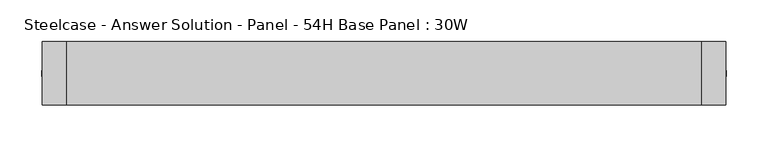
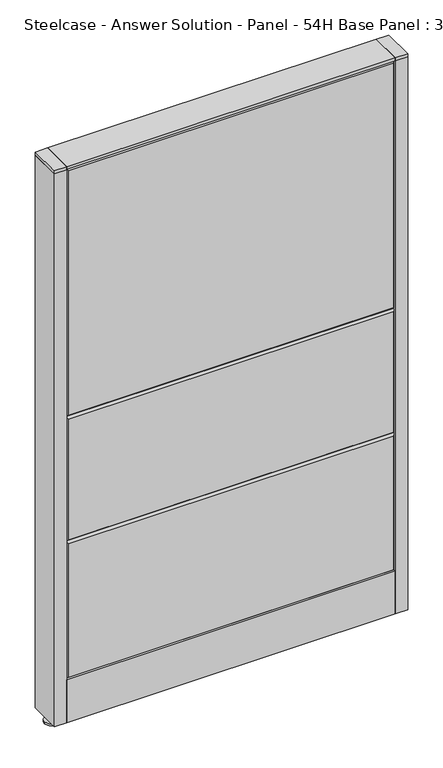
"""IFC4 building model written with IfcOpenShell, lengths in millimetres: furniture geometry, Steelcase - Answer Solution - Panel - 54H Base Panel : 30W."""

from ifc_helpers import new_model, si_unit, point, frame, frame_2d, origin, place, context, project, spatial, polyline, circle_curve, trimmed, segment, composite_curve, outline, extrude, faceted_brep, source, transform, mapped, element, save


def steelcase_answer_solution_panel_54h_base_panel_30w_034c49c9(model_context):
    return source(origin(), model_context, "Body", "SolidModel", [
        extrude(outline(composite_curve([segment(trimmed(circle_curve(frame_2d((395.224, 0.0320214)), 5.08), [point((400.304, 0.0320214))], [point((390.144, 0.0320214))], False, "CARTESIAN"), True, "CONTINUOUS"), segment(trimmed(circle_curve(frame_2d((395.224, 0.0320214)), 5.08), [point((390.144, 0.0320214))], [point((400.304, 0.0320214))], False, "CARTESIAN"), True, "CONTINUOUS")], self_intersect=False)), frame((0.0, 0.0, 5.0799671), z_axis=(0.0, 0.0, 1.0), x_axis=(1.0, 0.0, 0.0)), (0.0, 0.0, 1.0), 10.414),
        extrude(outline(composite_curve([segment(trimmed(circle_curve(frame_2d((395.224, 0.0320214)), 15.24), [point((410.464, 0.0320214))], [point((379.984, 0.0320214))], False, "CARTESIAN"), True, "CONTINUOUS"), segment(trimmed(circle_curve(frame_2d((395.224, 0.0320214)), 15.24), [point((379.984, 0.0320214))], [point((410.464, 0.0320214))], False, "CARTESIAN"), True, "CONTINUOUS")], self_intersect=False)), frame((0.0, 0.0, -3.29e-05), z_axis=(0.0, 0.0, 1.0), x_axis=(1.0, 0.0, 0.0)), (0.0, 0.0, 1.0), 5.08),
        extrude(outline(polyline([(409.575, 38.1320408), (409.575, -38.0679592), (381.0, -38.0679592), (381.0, 38.1320408), (409.575, 38.1320408)])), frame((0.0, 0.0, 1370.6348), z_axis=(0.0, 0.0, 1.0), x_axis=(1.0, 0.0, 0.0)), (0.0, 0.0, 1.0), 7.3151671),
        extrude(outline(polyline([(409.575, 38.1320408), (409.575, -38.0679592), (381.0, -38.0679592), (381.0, 38.1320408), (409.575, 38.1320408)])), frame((0.0, 0.0, 15.4939671), z_axis=(0.0, 0.0, 1.0), x_axis=(1.0, 0.0, 0.0)), (0.0, 0.0, 1.0), 1355.1408329),
        extrude(outline(composite_curve([segment(trimmed(circle_curve(frame_2d((-395.224, 0.0320214)), 5.08), [point((-400.304, 0.0320214))], [point((-390.144, 0.0320214))], False, "CARTESIAN"), True, "CONTINUOUS"), segment(trimmed(circle_curve(frame_2d((-395.224, 0.0320214)), 5.08), [point((-390.144, 0.0320214))], [point((-400.304, 0.0320214))], False, "CARTESIAN"), True, "CONTINUOUS")], self_intersect=False)), frame((0.0, 0.0, 5.0799671), z_axis=(0.0, 0.0, 1.0), x_axis=(1.0, 0.0, 0.0)), (0.0, 0.0, 1.0), 10.414),
        extrude(outline(composite_curve([segment(trimmed(circle_curve(frame_2d((-395.224, 0.0320214)), 15.24), [point((-410.464, 0.0320214))], [point((-379.984, 0.0320214))], False, "CARTESIAN"), True, "CONTINUOUS"), segment(trimmed(circle_curve(frame_2d((-395.224, 0.0320214)), 15.24), [point((-379.984, 0.0320214))], [point((-410.464, 0.0320214))], False, "CARTESIAN"), True, "CONTINUOUS")], self_intersect=False)), frame((0.0, 0.0, -3.29e-05), z_axis=(0.0, 0.0, 1.0), x_axis=(1.0, 0.0, 0.0)), (0.0, 0.0, 1.0), 5.08),
        extrude(outline(polyline([(-409.575, 38.1320408), (-381.0, 38.1320408), (-381.0, -38.0679592), (-409.575, -38.0679592), (-409.575, 38.1320408)])), frame((0.0, 0.0, 1370.6348), z_axis=(0.0, 0.0, 1.0), x_axis=(1.0, 0.0, 0.0)), (0.0, 0.0, 1.0), 7.3151671),
        extrude(outline(polyline([(-409.575, 38.1320408), (-381.0, 38.1320408), (-381.0, -38.0679592), (-409.575, -38.0679592), (-409.575, 38.1320408)])), frame((0.0, 0.0, 15.4939671), z_axis=(0.0, 0.0, 1.0), x_axis=(1.0, 0.0, 0.0)), (0.0, 0.0, 1.0), 1355.1408329),
        faceted_brep([(-376.174, 38.1635011, 1366.774), (376.174, 38.1635011, 1366.774), (376.174, 38.1635011, 766.826), (-376.174, 38.1635011, 766.826), (-381.0, 33.3375011, 1371.6), (-381.0, 33.3375011, 762.0), (381.0, 33.3375011, 762.0), (381.0, 33.3375011, 1371.6)], [[[0, 1, 2, 3]], [[4, 5, 6, 7]], [[4, 7, 1, 0]], [[7, 6, 2, 1]], [[6, 5, 3, 2]], [[5, 4, 0, 3]]]),
        faceted_brep([(-376.174, 38.1635011, 757.174), (376.174, 38.1635011, 757.174), (376.174, 38.1635011, 462.026), (-376.174, 38.1635011, 462.026), (-381.0, 33.3375011, 762.0), (-381.0, 33.3375011, 457.2), (381.0, 33.3375011, 457.2), (381.0, 33.3375011, 762.0)], [[[0, 1, 2, 3]], [[4, 5, 6, 7]], [[4, 7, 1, 0]], [[7, 6, 2, 1]], [[6, 5, 3, 2]], [[5, 4, 0, 3]]]),
        faceted_brep([(-376.174, 38.1635011, 452.374), (376.174, 38.1635011, 452.374), (376.174, 38.1635011, 125.476), (-376.174, 38.1635011, 125.476), (-381.0, 33.3375011, 457.2), (-381.0, 33.3375011, 120.65), (381.0, 33.3375011, 120.65), (381.0, 33.3375011, 457.2)], [[[0, 1, 2, 3]], [[4, 5, 6, 7]], [[4, 7, 1, 0]], [[7, 6, 2, 1]], [[6, 5, 3, 2]], [[5, 4, 0, 3]]]),
        faceted_brep([(376.174, -38.1635011, 1366.774), (-376.174, -38.1635011, 1366.774), (-376.174, -38.1635011, 766.826), (376.174, -38.1635011, 766.826), (381.0, -33.3375011, 1371.6), (381.0, -33.3375011, 762.0), (-381.0, -33.3375011, 762.0), (-381.0, -33.3375011, 1371.6)], [[[0, 1, 2, 3]], [[4, 5, 6, 7]], [[4, 7, 1, 0]], [[7, 6, 2, 1]], [[6, 5, 3, 2]], [[5, 4, 0, 3]]]),
        faceted_brep([(376.174, -38.1635011, 757.174), (-376.174, -38.1635011, 757.174), (-376.174, -38.1635011, 462.026), (376.174, -38.1635011, 462.026), (381.0, -33.3375011, 762.0), (381.0, -33.3375011, 457.2), (-381.0, -33.3375011, 457.2), (-381.0, -33.3375011, 762.0)], [[[0, 1, 2, 3]], [[4, 5, 6, 7]], [[4, 7, 1, 0]], [[7, 6, 2, 1]], [[6, 5, 3, 2]], [[5, 4, 0, 3]]]),
        faceted_brep([(376.174, -38.1635011, 452.374), (-376.174, -38.1635011, 452.374), (-376.174, -38.1635011, 125.476), (376.174, -38.1635011, 125.476), (381.0, -33.3375011, 457.2), (381.0, -33.3375011, 120.65), (-381.0, -33.3375011, 120.65), (-381.0, -33.3375011, 457.2)], [[[0, 1, 2, 3]], [[4, 5, 6, 7]], [[4, 7, 1, 0]], [[7, 6, 2, 1]], [[6, 5, 3, 2]], [[5, 4, 0, 3]]]),
        extrude(outline(polyline([(381.0, 38.1000194), (381.0, -38.1000194), (-381.0, -38.1000194), (-381.0, 38.1000194), (381.0, 38.1000194)])), frame((0.0, 0.0, 1371.6), z_axis=(0.0, 0.0, 1.0), x_axis=(1.0, 0.0, 0.0)), (0.0, 0.0, 1.0), 6.35),
        extrude(outline(polyline([(25.4000011, 119.8575157), (25.4000011, 120.65), (38.1000194, 120.65), (38.1000194, 15.494), (37.3075215, 15.494), (37.3075215, 119.8575157), (25.4000011, 119.8575157)])), frame((-381.0, 0.0, 0.0), z_axis=(1.0, 0.0, 0.0), x_axis=(0.0, 1.0, 0.0)), (0.0, 0.0, 1.0), 762.0),
        extrude(outline(polyline([(-25.4000011, 119.8575157), (-37.3075215, 119.8575157), (-37.3075215, 15.494), (-38.1000194, 15.494), (-38.1000194, 120.65), (-25.4000011, 120.65), (-25.4000011, 119.8575157)])), frame((-381.0, 0.0, 0.0), z_axis=(1.0, 0.0, 0.0), x_axis=(0.0, 1.0, 0.0)), (0.0, 0.0, 1.0), 762.0),
    ])


if __name__ == "__main__":
    model = new_model("IFC4")
    model_context = context("Model", 3, world=origin())
    ifc_project = project(units=[si_unit("LENGTHUNIT", "METRE", prefix="MILLI")], contexts=[model_context])
    site = spatial("IfcSite", under=ifc_project)
    building = spatial("IfcBuilding", under=site)
    placement = place(None, origin())
    steelcase_answer_solution_panel_54h_base_panel_30w_shape = steelcase_answer_solution_panel_54h_base_panel_30w_034c49c9(model_context)
    element("IfcFurniture", 1, ObjectType="Steelcase - Answer Solution - Panel - 54H Base Panel : 30W", at=placement, inside=building, context=model_context, shape_type="MappedRepresentation", body=[
        mapped(steelcase_answer_solution_panel_54h_base_panel_30w_shape, transform((0.0, 0.0, 0.0), x_axis=(1.0, 0.0, 0.0), y_axis=(0.0, 1.0, 0.0), z_axis=(0.0, 0.0, 1.0))),
    ])
    save(model, "model.ifc")
